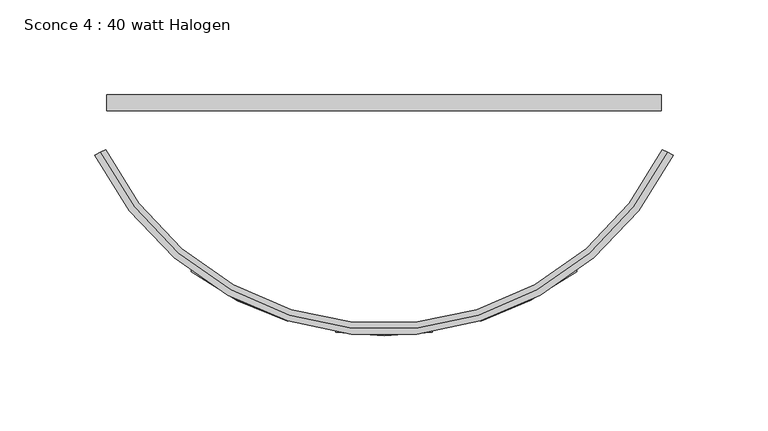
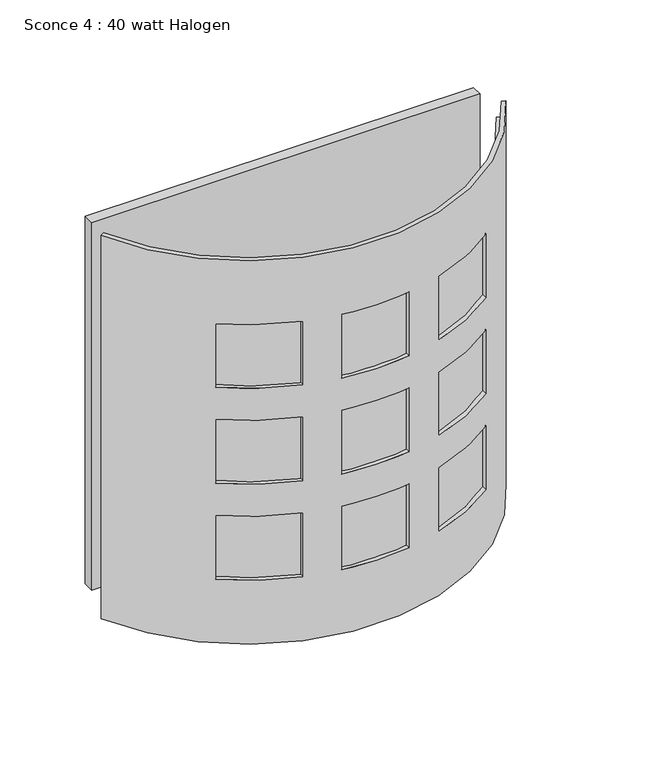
"""IFC4 building model written with IfcOpenShell, lengths in millimetres: light fixture geometry, Sconce 4 : 40 watt Halogen."""

from ifc_helpers import new_model, si_unit, point, frame, frame_2d, origin, place, context, project, spatial, polyline, circle_curve, trimmed, segment, composite_curve, outline, extrude, source, transform, mapped, element, save
from ifc_brep_helpers import plane_surface, cylinder_surface, revolved_surface, advanced_brep


def sconce_4_40_watt_halogen_a73e7348(model_context):
    return source(origin(), model_context, "Body", "SolidModel", [
        extrude(outline(composite_curve([segment(polyline([(110.3364722, -86.1174157), (113.1904048, -87.5087079)]), True, "CONTINUOUS"), segment(trimmed(circle_curve(frame_2d((-36.3556627, -14.605)), 166.37), [point((113.1904048, -87.5087079))], [point((-185.9017301, -87.5087079))], False, "CARTESIAN"), True, "CONTINUOUS"), segment(polyline([(-185.9017301, -87.5087079), (-183.0477975, -86.1174157)]), True, "CONTINUOUS"), segment(trimmed(circle_curve(frame_2d((-36.3556627, -14.605)), 163.195), [point((-183.0477975, -86.1174157))], [point((110.3364722, -86.1174157))], True, "CARTESIAN"), True, "CONTINUOUS")], self_intersect=False)), frame((0.0, 0.0, 1638.3), z_axis=(0.0, 0.0, 1.0), x_axis=(1.0, 0.0, 0.0)), (0.0, 0.0, 1.0), 279.4),
        advanced_brep(
        [(-185.9017301, -87.5087079, 1930.4), (-185.9017301, -87.5087079, 1625.6), (-188.7556627, -88.9, 1625.6), (-188.7556627, -88.9, 1930.4), (113.1904048, -87.5087079, 1930.4), (116.0443373, -88.9, 1930.4), (116.0443373, -88.9, 1625.6), (113.1904048, -87.5087079, 1625.6), (14.5676988, -176.3217842, 1879.6), (65.3676988, -150.2437288, 1879.6), (65.3676988, -150.2437288, 1828.8), (14.5676988, -176.3217842, 1828.8), (-61.7556627, -182.2365812, 1879.6), (-36.3556627, -184.15, 1879.6), (-10.9556627, -182.2365812, 1879.6), (-10.9556627, -182.2365812, 1828.8), (-36.3556627, -184.15, 1828.8), (-61.7556627, -182.2365812, 1828.8), (-137.9556627, -150.3361572, 1879.6), (-87.1556627, -176.360578, 1879.6), (-87.1556627, -176.360578, 1828.8), (-137.9556627, -150.3361572, 1828.8), (14.5676988, -176.3217842, 1803.4), (65.3676988, -150.2437288, 1803.4), (65.3676988, -150.2437288, 1752.6), (14.5676988, -176.3217842, 1752.6), (-137.9556627, -150.3361572, 1803.4), (-87.1556627, -176.360578, 1803.4), (-87.1556627, -176.360578, 1752.6), (-137.9556627, -150.3361572, 1752.6), (-137.9556627, -150.3361572, 1727.2), (-87.1556627, -176.360578, 1727.2), (-87.1556627, -176.360578, 1676.4), (-137.9556627, -150.3361572, 1676.4), (-61.7556627, -182.2365812, 1727.2), (-36.3556627, -184.15, 1727.2), (-10.9556627, -182.2365812, 1727.2), (-10.9556627, -182.2365812, 1676.4), (-36.3556627, -184.15, 1676.4), (-61.7556627, -182.2365812, 1676.4), (14.5676988, -176.3217842, 1727.2), (65.3676988, -150.2437288, 1727.2), (65.3676988, -150.2437288, 1676.4), (14.5676988, -176.3217842, 1676.4), (-61.7556627, -182.2365812, 1803.4), (-36.3556627, -184.15, 1803.4), (-10.9556627, -182.2365812, 1803.4), (-10.9556627, -182.2365812, 1752.6), (-36.3556627, -184.15, 1752.6), (-61.7556627, -182.2365812, 1752.6), (14.5676988, -172.9899367, 1828.8), (65.3676988, -146.2535269, 1828.8), (65.3676988, -146.2535269, 1879.6), (14.5676988, -172.9899367, 1879.6), (-61.7556627, -179.0246366, 1828.8), (-10.9556627, -179.0246366, 1828.8), (-10.9556627, -179.0246366, 1879.6), (-61.7556627, -179.0246366, 1879.6), (-137.9556627, -146.3487547, 1828.8), (-87.1556627, -173.0295464, 1828.8), (-87.1556627, -173.0295464, 1879.6), (-137.9556627, -146.3487547, 1879.6), (14.5676988, -172.9899367, 1752.6), (65.3676988, -146.2535269, 1752.6), (65.3676988, -146.2535269, 1803.4), (14.5676988, -172.9899367, 1803.4), (-137.9556627, -146.3487547, 1752.6), (-87.1556627, -173.0295464, 1752.6), (-87.1556627, -173.0295464, 1803.4), (-137.9556627, -146.3487547, 1803.4), (-137.9556627, -146.3487547, 1676.4), (-87.1556627, -173.0295464, 1676.4), (-87.1556627, -173.0295464, 1727.2), (-137.9556627, -146.3487547, 1727.2), (-61.7556627, -179.0246366, 1676.4), (-10.9556627, -179.0246366, 1676.4), (-10.9556627, -179.0246366, 1727.2), (-61.7556627, -179.0246366, 1727.2), (14.5676988, -172.9899367, 1676.4), (65.3676988, -146.2535269, 1676.4), (65.3676988, -146.2535269, 1727.2), (14.5676988, -172.9899367, 1727.2), (-61.7556627, -179.0246366, 1752.6), (-10.9556627, -179.0246366, 1752.6), (-10.9556627, -179.0246366, 1803.4), (-61.7556627, -179.0246366, 1803.4)],
        [
            (0, 1),
            (1, 2),
            (2, 3),
            (3, 0),
            (4, 5),
            (5, 6),
            (6, 7),
            (7, 4),
            (3, 5, circle_curve(frame((-36.3556627, -14.605, 1930.4), z_axis=(0.0, 0.0, 1.0), x_axis=(-0.8988764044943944, -0.43820224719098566, 0.0)), 169.545)),
            (4, 0, circle_curve(frame((-36.3556627, -14.605, 1930.4), z_axis=(0.0, 0.0, -1.0), x_axis=(-0.8988764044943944, -0.43820224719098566, 0.0)), 166.37)),
            (2, 6, circle_curve(frame((-36.3556627, -14.605, 1625.6), z_axis=(0.0, 0.0, 1.0), x_axis=(-0.8988764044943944, -0.43820224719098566, 0.0)), 169.545)),
            (8, 9, circle_curve(frame((-36.3556627, -14.605, 1879.6), z_axis=(0.0, 0.0, 1.0), x_axis=(-0.8988764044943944, -0.43820224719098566, 0.0)), 169.545)),
            (9, 10),
            (10, 11, circle_curve(frame((-36.3556627, -14.605, 1828.8), z_axis=(0.0, 0.0, -1.0), x_axis=(-0.8988764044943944, -0.43820224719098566, 0.0)), 169.545)),
            (11, 8),
            (12, 13, circle_curve(frame((-36.3556627, -14.605, 1879.6), z_axis=(0.0, 0.0, 1.0), x_axis=(-0.8988764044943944, -0.43820224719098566, 0.0)), 169.545)),
            (13, 14, circle_curve(frame((-36.3556627, -14.605, 1879.6), z_axis=(0.0, 0.0, 1.0), x_axis=(-0.8988764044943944, -0.43820224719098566, 0.0)), 169.545)),
            (14, 15),
            (15, 16, circle_curve(frame((-36.3556627, -14.605, 1828.8), z_axis=(0.0, 0.0, -1.0), x_axis=(-0.8988764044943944, -0.43820224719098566, 0.0)), 169.545)),
            (16, 17, circle_curve(frame((-36.3556627, -14.605, 1828.8), z_axis=(0.0, 0.0, -1.0), x_axis=(-0.8988764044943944, -0.43820224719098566, 0.0)), 169.545)),
            (17, 12),
            (18, 19, circle_curve(frame((-36.3556627, -14.605, 1879.6), z_axis=(0.0, 0.0, 1.0), x_axis=(-0.8988764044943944, -0.43820224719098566, 0.0)), 169.545)),
            (19, 20),
            (20, 21, circle_curve(frame((-36.3556627, -14.605, 1828.8), z_axis=(0.0, 0.0, -1.0), x_axis=(-0.8988764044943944, -0.43820224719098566, 0.0)), 169.545)),
            (21, 18),
            (22, 23, circle_curve(frame((-36.3556627, -14.605, 1803.4), z_axis=(0.0, 0.0, 1.0), x_axis=(-0.8988764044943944, -0.43820224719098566, 0.0)), 169.545)),
            (23, 24),
            (24, 25, circle_curve(frame((-36.3556627, -14.605, 1752.6), z_axis=(0.0, 0.0, -1.0), x_axis=(-0.8988764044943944, -0.43820224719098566, 0.0)), 169.545)),
            (25, 22),
            (26, 27, circle_curve(frame((-36.3556627, -14.605, 1803.4), z_axis=(0.0, 0.0, 1.0), x_axis=(-0.8988764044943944, -0.43820224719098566, 0.0)), 169.545)),
            (27, 28),
            (28, 29, circle_curve(frame((-36.3556627, -14.605, 1752.6), z_axis=(0.0, 0.0, -1.0), x_axis=(-0.8988764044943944, -0.43820224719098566, 0.0)), 169.545)),
            (29, 26),
            (30, 31, circle_curve(frame((-36.3556627, -14.605, 1727.2), z_axis=(0.0, 0.0, 1.0), x_axis=(-0.8988764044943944, -0.43820224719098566, 0.0)), 169.545)),
            (31, 32),
            (32, 33, circle_curve(frame((-36.3556627, -14.605, 1676.4), z_axis=(0.0, 0.0, -1.0), x_axis=(-0.8988764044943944, -0.43820224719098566, 0.0)), 169.545)),
            (33, 30),
            (34, 35, circle_curve(frame((-36.3556627, -14.605, 1727.2), z_axis=(0.0, 0.0, 1.0), x_axis=(-0.8988764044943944, -0.43820224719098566, 0.0)), 169.545)),
            (35, 36, circle_curve(frame((-36.3556627, -14.605, 1727.2), z_axis=(0.0, 0.0, 1.0), x_axis=(-0.8988764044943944, -0.43820224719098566, 0.0)), 169.545)),
            (36, 37),
            (37, 38, circle_curve(frame((-36.3556627, -14.605, 1676.4), z_axis=(0.0, 0.0, -1.0), x_axis=(-0.8988764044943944, -0.43820224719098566, 0.0)), 169.545)),
            (38, 39, circle_curve(frame((-36.3556627, -14.605, 1676.4), z_axis=(0.0, 0.0, -1.0), x_axis=(-0.8988764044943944, -0.43820224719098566, 0.0)), 169.545)),
            (39, 34),
            (40, 41, circle_curve(frame((-36.3556627, -14.605, 1727.2), z_axis=(0.0, 0.0, 1.0), x_axis=(-0.8988764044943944, -0.43820224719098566, 0.0)), 169.545)),
            (41, 42),
            (42, 43, circle_curve(frame((-36.3556627, -14.605, 1676.4), z_axis=(0.0, 0.0, -1.0), x_axis=(-0.8988764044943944, -0.43820224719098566, 0.0)), 169.545)),
            (43, 40),
            (44, 45, circle_curve(frame((-36.3556627, -14.605, 1803.4), z_axis=(0.0, 0.0, 1.0), x_axis=(-0.8988764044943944, -0.43820224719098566, 0.0)), 169.545)),
            (45, 46, circle_curve(frame((-36.3556627, -14.605, 1803.4), z_axis=(0.0, 0.0, 1.0), x_axis=(-0.8988764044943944, -0.43820224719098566, 0.0)), 169.545)),
            (46, 47),
            (47, 48, circle_curve(frame((-36.3556627, -14.605, 1752.6), z_axis=(0.0, 0.0, -1.0), x_axis=(-0.8988764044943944, -0.43820224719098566, 0.0)), 169.545)),
            (48, 49, circle_curve(frame((-36.3556627, -14.605, 1752.6), z_axis=(0.0, 0.0, -1.0), x_axis=(-0.8988764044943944, -0.43820224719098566, 0.0)), 169.545)),
            (49, 44),
            (1, 7, circle_curve(frame((-36.3556627, -14.605, 1625.6), z_axis=(0.0, 0.0, 1.0), x_axis=(-0.8988764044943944, -0.43820224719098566, 0.0)), 166.37)),
            (50, 51, circle_curve(frame((-36.3556627, -14.605, 1828.8), z_axis=(0.0, 0.0, 1.0), x_axis=(-0.8988764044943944, -0.43820224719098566, 0.0)), 166.37)),
            (51, 52),
            (52, 53, circle_curve(frame((-36.3556627, -14.605, 1879.6), z_axis=(0.0, 0.0, -1.0), x_axis=(-0.8988764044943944, -0.43820224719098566, 0.0)), 166.37)),
            (53, 50),
            (54, 55, circle_curve(frame((-36.3556627, -14.605, 1828.8), z_axis=(0.0, 0.0, 1.0), x_axis=(-0.8988764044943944, -0.43820224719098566, 0.0)), 166.37)),
            (55, 56),
            (56, 57, circle_curve(frame((-36.3556627, -14.605, 1879.6), z_axis=(0.0, 0.0, -1.0), x_axis=(-0.8988764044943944, -0.43820224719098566, 0.0)), 166.37)),
            (57, 54),
            (58, 59, circle_curve(frame((-36.3556627, -14.605, 1828.8), z_axis=(0.0, 0.0, 1.0), x_axis=(-0.8988764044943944, -0.43820224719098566, 0.0)), 166.37)),
            (59, 60),
            (60, 61, circle_curve(frame((-36.3556627, -14.605, 1879.6), z_axis=(0.0, 0.0, -1.0), x_axis=(-0.8988764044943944, -0.43820224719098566, 0.0)), 166.37)),
            (61, 58),
            (62, 63, circle_curve(frame((-36.3556627, -14.605, 1752.6), z_axis=(0.0, 0.0, 1.0), x_axis=(-0.8988764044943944, -0.43820224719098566, 0.0)), 166.37)),
            (63, 64),
            (64, 65, circle_curve(frame((-36.3556627, -14.605, 1803.4), z_axis=(0.0, 0.0, -1.0), x_axis=(-0.8988764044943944, -0.43820224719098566, 0.0)), 166.37)),
            (65, 62),
            (66, 67, circle_curve(frame((-36.3556627, -14.605, 1752.6), z_axis=(0.0, 0.0, 1.0), x_axis=(-0.8988764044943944, -0.43820224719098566, 0.0)), 166.37)),
            (67, 68),
            (68, 69, circle_curve(frame((-36.3556627, -14.605, 1803.4), z_axis=(0.0, 0.0, -1.0), x_axis=(-0.8988764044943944, -0.43820224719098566, 0.0)), 166.37)),
            (69, 66),
            (70, 71, circle_curve(frame((-36.3556627, -14.605, 1676.4), z_axis=(0.0, 0.0, 1.0), x_axis=(-0.8988764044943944, -0.43820224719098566, 0.0)), 166.37)),
            (71, 72),
            (72, 73, circle_curve(frame((-36.3556627, -14.605, 1727.2), z_axis=(0.0, 0.0, -1.0), x_axis=(-0.8988764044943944, -0.43820224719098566, 0.0)), 166.37)),
            (73, 70),
            (74, 75, circle_curve(frame((-36.3556627, -14.605, 1676.4), z_axis=(0.0, 0.0, 1.0), x_axis=(-0.8988764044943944, -0.43820224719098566, 0.0)), 166.37)),
            (75, 76),
            (76, 77, circle_curve(frame((-36.3556627, -14.605, 1727.2), z_axis=(0.0, 0.0, -1.0), x_axis=(-0.8988764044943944, -0.43820224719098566, 0.0)), 166.37)),
            (77, 74),
            (78, 79, circle_curve(frame((-36.3556627, -14.605, 1676.4), z_axis=(0.0, 0.0, 1.0), x_axis=(-0.8988764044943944, -0.43820224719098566, 0.0)), 166.37)),
            (79, 80),
            (80, 81, circle_curve(frame((-36.3556627, -14.605, 1727.2), z_axis=(0.0, 0.0, -1.0), x_axis=(-0.8988764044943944, -0.43820224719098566, 0.0)), 166.37)),
            (81, 78),
            (82, 83, circle_curve(frame((-36.3556627, -14.605, 1752.6), z_axis=(0.0, 0.0, 1.0), x_axis=(-0.8988764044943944, -0.43820224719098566, 0.0)), 166.37)),
            (83, 84),
            (84, 85, circle_curve(frame((-36.3556627, -14.605, 1803.4), z_axis=(0.0, 0.0, -1.0), x_axis=(-0.8988764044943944, -0.43820224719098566, 0.0)), 166.37)),
            (85, 82),
            (11, 50),
            (53, 8),
            (10, 51),
            (9, 52),
            (17, 54),
            (57, 12),
            (15, 55),
            (14, 56),
            (21, 58),
            (61, 18),
            (20, 59),
            (19, 60),
            (25, 62),
            (65, 22),
            (24, 63),
            (23, 64),
            (29, 66),
            (69, 26),
            (28, 67),
            (27, 68),
            (33, 70),
            (73, 30),
            (32, 71),
            (31, 72),
            (39, 74),
            (77, 34),
            (37, 75),
            (36, 76),
            (43, 78),
            (81, 40),
            (42, 79),
            (41, 80),
            (49, 82),
            (85, 44),
            (47, 83),
            (46, 84),
        ],
        [
            plane_surface(frame((-188.7556627, -88.9, 1778.0), z_axis=(-0.43820224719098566, 0.8988764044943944, 0.0), x_axis=(0.0, 0.0, 1.0))),
            plane_surface(frame((116.0443373, -88.9, 1778.0), z_axis=(0.4382022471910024, 0.8988764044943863, 0.0), x_axis=(0.0, 0.0, 1.0))),
            plane_surface(frame((-36.3556627, -14.605, 1930.4), z_axis=(0.0, 0.0, 1.0), x_axis=(-0.8988764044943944, -0.43820224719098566, 0.0))),
            cylinder_surface(frame((-36.3556627, -14.605, 1778.0), z_axis=(0.0, 0.0, -1.0), x_axis=(-0.8988764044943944, -0.43820224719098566, 0.0)), 169.545),
            plane_surface(frame((-36.3556627, -14.605, 1625.6), z_axis=(0.0, 0.0, -1.0), x_axis=(-0.8988764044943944, -0.43820224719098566, 0.0))),
            revolved_surface(polyline([(-185.90173011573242, -87.5087078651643, 1625.6), (-185.90173011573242, -87.5087078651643, 1930.4)]), (-36.3556627, -14.605, 1778.0), (0.0, 0.0, -1.0)),
            plane_surface(frame((14.5676988, -120.65, 1879.6), z_axis=(1.0, 0.0, 0.0), x_axis=(0.0, -1.0, 0.0))),
            plane_surface(frame((14.5676988, -120.65, 1828.8), z_axis=(0.0, 0.0, 1.0), x_axis=(0.0, -1.0, 0.0))),
            plane_surface(frame((65.3676988, -120.65, 1828.8), z_axis=(-1.0, 0.0, 0.0), x_axis=(0.0, -1.0, 0.0))),
            plane_surface(frame((65.3676988, -120.65, 1879.6), z_axis=(0.0, 0.0, -1.0), x_axis=(0.0, -1.0, 0.0))),
            plane_surface(frame((-61.7556627, -120.65, 1879.6), z_axis=(1.0, 0.0, 0.0), x_axis=(0.0, -1.0, 0.0))),
            plane_surface(frame((-61.7556627, -120.65, 1828.8), z_axis=(0.0, 0.0, 1.0), x_axis=(0.0, -1.0, 0.0))),
            plane_surface(frame((-10.9556627, -120.65, 1828.8), z_axis=(-1.0, 0.0, 0.0), x_axis=(0.0, -1.0, 0.0))),
            plane_surface(frame((-10.9556627, -120.65, 1879.6), z_axis=(0.0, 0.0, -1.0), x_axis=(0.0, -1.0, 0.0))),
            plane_surface(frame((-137.9556627, -120.65, 1879.6), z_axis=(1.0, 0.0, 0.0), x_axis=(0.0, -1.0, 0.0))),
            plane_surface(frame((-137.9556627, -120.65, 1828.8), z_axis=(0.0, 0.0, 1.0), x_axis=(0.0, -1.0, 0.0))),
            plane_surface(frame((-87.1556627, -120.65, 1828.8), z_axis=(-1.0, 0.0, 0.0), x_axis=(0.0, -1.0, 0.0))),
            plane_surface(frame((-87.1556627, -120.65, 1879.6), z_axis=(0.0, 0.0, -1.0), x_axis=(0.0, -1.0, 0.0))),
            plane_surface(frame((14.5676988, -120.65, 1803.4), z_axis=(1.0, 0.0, 0.0), x_axis=(0.0, -1.0, 0.0))),
            plane_surface(frame((14.5676988, -120.65, 1752.6), z_axis=(0.0, 0.0, 1.0), x_axis=(0.0, -1.0, 0.0))),
            plane_surface(frame((65.3676988, -120.65, 1752.6), z_axis=(-1.0, 0.0, 0.0), x_axis=(0.0, -1.0, 0.0))),
            plane_surface(frame((65.3676988, -120.65, 1803.4), z_axis=(0.0, 0.0, -1.0), x_axis=(0.0, -1.0, 0.0))),
            plane_surface(frame((-137.9556627, -120.65, 1803.4), z_axis=(1.0, 0.0, 0.0), x_axis=(0.0, -1.0, 0.0))),
            plane_surface(frame((-137.9556627, -120.65, 1752.6), z_axis=(0.0, 0.0, 1.0), x_axis=(0.0, -1.0, 0.0))),
            plane_surface(frame((-87.1556627, -120.65, 1752.6), z_axis=(-1.0, 0.0, 0.0), x_axis=(0.0, -1.0, 0.0))),
            plane_surface(frame((-87.1556627, -120.65, 1803.4), z_axis=(0.0, 0.0, -1.0), x_axis=(0.0, -1.0, 0.0))),
            plane_surface(frame((-137.9556627, -120.65, 1727.2), z_axis=(1.0, 0.0, 0.0), x_axis=(0.0, -1.0, 0.0))),
            plane_surface(frame((-137.9556627, -120.65, 1676.4), z_axis=(0.0, 0.0, 1.0), x_axis=(0.0, -1.0, 0.0))),
            plane_surface(frame((-87.1556627, -120.65, 1676.4), z_axis=(-1.0, 0.0, 0.0), x_axis=(0.0, -1.0, 0.0))),
            plane_surface(frame((-87.1556627, -120.65, 1727.2), z_axis=(0.0, 0.0, -1.0), x_axis=(0.0, -1.0, 0.0))),
            plane_surface(frame((-61.7556627, -120.65, 1727.2), z_axis=(1.0, 0.0, 0.0), x_axis=(0.0, -1.0, 0.0))),
            plane_surface(frame((-61.7556627, -120.65, 1676.4), z_axis=(0.0, 0.0, 1.0), x_axis=(0.0, -1.0, 0.0))),
            plane_surface(frame((-10.9556627, -120.65, 1676.4), z_axis=(-1.0, 0.0, 0.0), x_axis=(0.0, -1.0, 0.0))),
            plane_surface(frame((-10.9556627, -120.65, 1727.2), z_axis=(0.0, 0.0, -1.0), x_axis=(0.0, -1.0, 0.0))),
            plane_surface(frame((14.5676988, -120.65, 1727.2), z_axis=(1.0, 0.0, 0.0), x_axis=(0.0, -1.0, 0.0))),
            plane_surface(frame((14.5676988, -120.65, 1676.4), z_axis=(0.0, 0.0, 1.0), x_axis=(0.0, -1.0, 0.0))),
            plane_surface(frame((65.3676988, -120.65, 1676.4), z_axis=(-1.0, 0.0, 0.0), x_axis=(0.0, -1.0, 0.0))),
            plane_surface(frame((65.3676988, -120.65, 1727.2), z_axis=(0.0, 0.0, -1.0), x_axis=(0.0, -1.0, 0.0))),
            plane_surface(frame((-61.7556627, -120.65, 1803.4), z_axis=(1.0, 0.0, 0.0), x_axis=(0.0, -1.0, 0.0))),
            plane_surface(frame((-61.7556627, -120.65, 1752.6), z_axis=(0.0, 0.0, 1.0), x_axis=(0.0, -1.0, 0.0))),
            plane_surface(frame((-10.9556627, -120.65, 1752.6), z_axis=(-1.0, 0.0, 0.0), x_axis=(0.0, -1.0, 0.0))),
            plane_surface(frame((-10.9556627, -120.65, 1803.4), z_axis=(0.0, 0.0, -1.0), x_axis=(0.0, -1.0, 0.0))),
        ],
        [
            (0, [[1, 2, 3, 4]]),
            (1, [[5, 6, 7, 8]]),
            (2, [[9, -5, 10, -4]]),
            (3, [[11, -6, -9, -3], [12, 13, 14, 15], [16, 17, 18, 19, 20, 21], [22, 23, 24, 25], [26, 27, 28, 29], [30, 31, 32, 33], [34, 35, 36, 37], [38, 39, 40, 41, 42, 43], [44, 45, 46, 47], [48, 49, 50, 51, 52, 53]]),
            (4, [[54, -7, -11, -2]]),
            (5, [[-10, -8, -54, -1], [55, 56, 57, 58], [59, 60, 61, 62], [63, 64, 65, 66], [67, 68, 69, 70], [71, 72, 73, 74], [75, 76, 77, 78], [79, 80, 81, 82], [83, 84, 85, 86], [87, 88, 89, 90]]),
            (6, [[-15, 91, -58, 92]]),
            (7, [[-14, 93, -55, -91]]),
            (8, [[-13, 94, -56, -93]]),
            (9, [[-57, -94, -12, -92]]),
            (10, [[-21, 95, -62, 96]]),
            (11, [[-20, -19, 97, -59, -95]]),
            (12, [[-18, 98, -60, -97]]),
            (13, [[-61, -98, -17, -16, -96]]),
            (14, [[-25, 99, -66, 100]]),
            (15, [[-24, 101, -63, -99]]),
            (16, [[-23, 102, -64, -101]]),
            (17, [[-65, -102, -22, -100]]),
            (18, [[-29, 103, -70, 104]]),
            (19, [[-28, 105, -67, -103]]),
            (20, [[-27, 106, -68, -105]]),
            (21, [[-69, -106, -26, -104]]),
            (22, [[-33, 107, -74, 108]]),
            (23, [[-32, 109, -71, -107]]),
            (24, [[-31, 110, -72, -109]]),
            (25, [[-73, -110, -30, -108]]),
            (26, [[-37, 111, -78, 112]]),
            (27, [[-36, 113, -75, -111]]),
            (28, [[-35, 114, -76, -113]]),
            (29, [[-77, -114, -34, -112]]),
            (30, [[-43, 115, -82, 116]]),
            (31, [[-42, -41, 117, -79, -115]]),
            (32, [[-40, 118, -80, -117]]),
            (33, [[-81, -118, -39, -38, -116]]),
            (34, [[-47, 119, -86, 120]]),
            (35, [[-46, 121, -83, -119]]),
            (36, [[-45, 122, -84, -121]]),
            (37, [[-85, -122, -44, -120]]),
            (38, [[-53, 123, -90, 124]]),
            (39, [[-52, -51, 125, -87, -123]]),
            (40, [[-50, 126, -88, -125]]),
            (41, [[-89, -126, -49, -48, -124]]),
        ],
    ),
        extrude(outline(polyline([(-182.4056627, -65.5951632), (-182.4056627, -57.15), (109.6943373, -57.15), (109.6943373, -65.5951632), (-182.4056627, -65.5951632)])), frame((0.0, 0.0, 1631.95), z_axis=(0.0, 0.0, 1.0), x_axis=(1.0, 0.0, 0.0)), (0.0, 0.0, 1.0), 292.1),
    ])


if __name__ == "__main__":
    model = new_model("IFC4")
    model_context = context("Model", 3, world=origin())
    ifc_project = project(units=[si_unit("LENGTHUNIT", "METRE", prefix="MILLI")], contexts=[model_context])
    site = spatial("IfcSite", under=ifc_project)
    building = spatial("IfcBuilding", under=site)
    placement = place(None, origin())
    sconce_4_40_watt_halogen_shape = sconce_4_40_watt_halogen_a73e7348(model_context)
    element("IfcLightFixture", 1, ObjectType="Sconce 4 : 40 watt Halogen", at=placement, inside=building, context=model_context, shape_type="MappedRepresentation", body=[
        mapped(sconce_4_40_watt_halogen_shape, transform((0.0, 0.0, 0.0), x_axis=(1.0, 0.0, 0.0), y_axis=(0.0, 1.0, 0.0), z_axis=(0.0, 0.0, 1.0))),
    ])
    save(model, "model.ifc")
